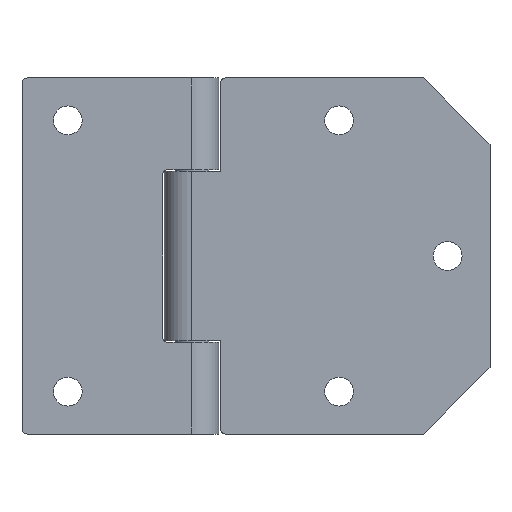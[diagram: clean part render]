
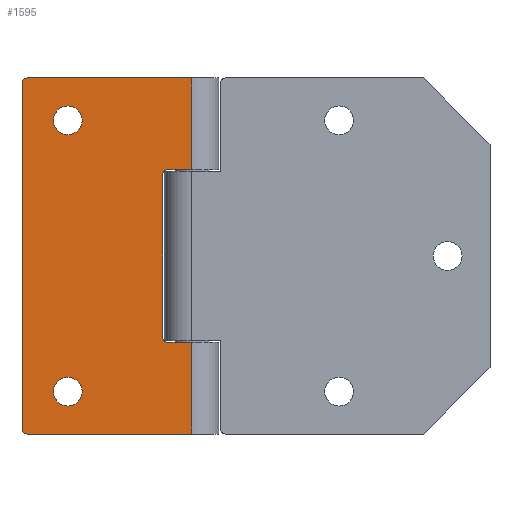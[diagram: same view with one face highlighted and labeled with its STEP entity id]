
A CAD part, front view. The second image highlights one B-rep face of the part: STEP entity #1595.
In plain terms, the highlighted planar face has unit normal (0, -1, 0).
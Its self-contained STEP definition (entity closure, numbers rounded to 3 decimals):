
#9 = CARTESIAN_POINT ( 'NONE',  ( -50., -8., 51. ) ) ;
#12 = VERTEX_POINT ( 'NONE', #1203 ) ;
#30 = CARTESIAN_POINT ( 'NONE',  ( 0., -8., 52.5 ) ) ;
#43 = FACE_BOUND ( 'NONE', #371, .T. ) ;
#51 = CIRCLE ( 'NONE', #851, 4.25 ) ;
#55 = CARTESIAN_POINT ( 'NONE',  ( 0., -8., 52.5 ) ) ;
#89 = CARTESIAN_POINT ( 'NONE',  ( -36.5, -8., -40. ) ) ;
#123 = CARTESIAN_POINT ( 'NONE',  ( -7., -8., -25.5 ) ) ;
#125 = EDGE_CURVE ( 'NONE', #1355, #1218, #1653, .T. ) ;
#156 = VECTOR ( 'NONE', #514, 1000. ) ;
#166 = DIRECTION ( 'NONE',  ( 1., 0., 0. ) ) ;
#186 = CARTESIAN_POINT ( 'NONE',  ( -8.5, -8., 24. ) ) ;
#191 = ORIENTED_EDGE ( 'NONE', *, *, #1415, .T. ) ;
#193 = ORIENTED_EDGE ( 'NONE', *, *, #876, .T. ) ;
#200 = CARTESIAN_POINT ( 'NONE',  ( 0., -8., -25.5 ) ) ;
#219 = ORIENTED_EDGE ( 'NONE', *, *, #684, .T. ) ;
#231 = ORIENTED_EDGE ( 'NONE', *, *, #264, .T. ) ;
#247 = EDGE_LOOP ( 'NONE', ( #1670, #1574 ) ) ;
#264 = EDGE_CURVE ( 'NONE', #1180, #336, #1663, .T. ) ;
#280 = ORIENTED_EDGE ( 'NONE', *, *, #1257, .F. ) ;
#309 = CARTESIAN_POINT ( 'NONE',  ( 0., -8., 52.5 ) ) ;
#323 = VERTEX_POINT ( 'NONE', #511 ) ;
#327 = LINE ( 'NONE', #1010, #1656 ) ;
#336 = VERTEX_POINT ( 'NONE', #1843 ) ;
#338 = CARTESIAN_POINT ( 'NONE',  ( -36.5, -8., 40. ) ) ;
#346 = VERTEX_POINT ( 'NONE', #200 ) ;
#371 = EDGE_LOOP ( 'NONE', ( #1453, #1904 ) ) ;
#381 = VECTOR ( 'NONE', #725, 1000. ) ;
#432 = DIRECTION ( 'NONE',  ( -1., 0., 0. ) ) ;
#440 = CARTESIAN_POINT ( 'NONE',  ( -36.5, -8., 40. ) ) ;
#453 = CARTESIAN_POINT ( 'NONE',  ( -8.5, -8., 52.5 ) ) ;
#496 = CARTESIAN_POINT ( 'NONE',  ( -7., -8., 24. ) ) ;
#511 = CARTESIAN_POINT ( 'NONE',  ( -50., -8., -51. ) ) ;
#514 = DIRECTION ( 'NONE',  ( 1., 0., 0. ) ) ;
#526 = DIRECTION ( 'NONE',  ( -1., 0., 0. ) ) ;
#530 = CARTESIAN_POINT ( 'NONE',  ( -7., -8., -24. ) ) ;
#536 = ORIENTED_EDGE ( 'NONE', *, *, #662, .F. ) ;
#548 = DIRECTION ( 'NONE',  ( 0., 1., 0. ) ) ;
#592 = VERTEX_POINT ( 'NONE', #1120 ) ;
#635 = EDGE_CURVE ( 'NONE', #2153, #1180, #2038, .T. ) ;
#644 = DIRECTION ( 'NONE',  ( 0., 1., 0. ) ) ;
#646 = CIRCLE ( 'NONE', #1407, 1.5 ) ;
#653 = VECTOR ( 'NONE', #166, 1000. ) ;
#660 = CARTESIAN_POINT ( 'NONE',  ( 0., -8., -52.5 ) ) ;
#662 = EDGE_CURVE ( 'NONE', #1171, #1126, #1527, .T. ) ;
#684 = EDGE_CURVE ( 'NONE', #346, #1019, #1162, .T. ) ;
#686 = CARTESIAN_POINT ( 'NONE',  ( 0., -8., -25.5 ) ) ;
#705 = AXIS2_PLACEMENT_3D ( 'NONE', #89, #548, #1101 ) ;
#709 = VERTEX_POINT ( 'NONE', #9 ) ;
#710 = FACE_BOUND ( 'NONE', #247, .T. ) ;
#723 = DIRECTION ( 'NONE',  ( 0., 1., 0. ) ) ;
#725 = DIRECTION ( 'NONE',  ( 0., 0., -1. ) ) ;
#734 = VECTOR ( 'NONE', #1662, 1000. ) ;
#742 = DIRECTION ( 'NONE',  ( -1., 0., 0. ) ) ;
#771 = AXIS2_PLACEMENT_3D ( 'NONE', #55, #723, #931 ) ;
#786 = CARTESIAN_POINT ( 'NONE',  ( -36.5, -8., -35.75 ) ) ;
#818 = DIRECTION ( 'NONE',  ( -1., 0., 0. ) ) ;
#851 = AXIS2_PLACEMENT_3D ( 'NONE', #440, #1434, #2108 ) ;
#862 = DIRECTION ( 'NONE',  ( 0., 1., 0. ) ) ;
#876 = EDGE_CURVE ( 'NONE', #1171, #709, #1418, .T. ) ;
#884 = FACE_OUTER_BOUND ( 'NONE', #1496, .T. ) ;
#924 = VECTOR ( 'NONE', #1808, 1000. ) ;
#931 = DIRECTION ( 'NONE',  ( -1., 0., 0. ) ) ;
#941 = LINE ( 'NONE', #309, #924 ) ;
#949 = CARTESIAN_POINT ( 'NONE',  ( 0., -8., -52.5 ) ) ;
#979 = CIRCLE ( 'NONE', #705, 4.25 ) ;
#1005 = ORIENTED_EDGE ( 'NONE', *, *, #1394, .T. ) ;
#1010 = CARTESIAN_POINT ( 'NONE',  ( 0., -8., 52.5 ) ) ;
#1019 = VERTEX_POINT ( 'NONE', #123 ) ;
#1030 = AXIS2_PLACEMENT_3D ( 'NONE', #1255, #1921, #432 ) ;
#1079 = CARTESIAN_POINT ( 'NONE',  ( 0., -8., 52.5 ) ) ;
#1082 = EDGE_CURVE ( 'NONE', #709, #323, #1399, .T. ) ;
#1092 = AXIS2_PLACEMENT_3D ( 'NONE', #496, #1508, #1671 ) ;
#1101 = DIRECTION ( 'NONE',  ( -1., 0., 0. ) ) ;
#1120 = CARTESIAN_POINT ( 'NONE',  ( -36.5, -8., 44.25 ) ) ;
#1126 = VERTEX_POINT ( 'NONE', #1079 ) ;
#1147 = CARTESIAN_POINT ( 'NONE',  ( 0., -8., 25.5 ) ) ;
#1162 = LINE ( 'NONE', #686, #1644 ) ;
#1168 = DIRECTION ( 'NONE',  ( -1., 0., 0. ) ) ;
#1171 = VERTEX_POINT ( 'NONE', #1763 ) ;
#1180 = VERTEX_POINT ( 'NONE', #1286 ) ;
#1191 = EDGE_CURVE ( 'NONE', #1803, #2153, #1616, .T. ) ;
#1203 = CARTESIAN_POINT ( 'NONE',  ( -48.5, -8., -52.5 ) ) ;
#1210 = VERTEX_POINT ( 'NONE', #949 ) ;
#1218 = VERTEX_POINT ( 'NONE', #786 ) ;
#1238 = DIRECTION ( 'NONE',  ( 0., -1., 0. ) ) ;
#1255 = CARTESIAN_POINT ( 'NONE',  ( -36.5, -8., -40. ) ) ;
#1257 = EDGE_CURVE ( 'NONE', #1126, #336, #941, .T. ) ;
#1286 = CARTESIAN_POINT ( 'NONE',  ( -7., -8., 25.5 ) ) ;
#1299 = EDGE_CURVE ( 'NONE', #1981, #592, #51, .T. ) ;
#1301 = LINE ( 'NONE', #660, #734 ) ;
#1307 = DIRECTION ( 'NONE',  ( -1., 0., 0. ) ) ;
#1314 = ORIENTED_EDGE ( 'NONE', *, *, #635, .T. ) ;
#1321 = CARTESIAN_POINT ( 'NONE',  ( -36.5, -8., -44.25 ) ) ;
#1355 = VERTEX_POINT ( 'NONE', #1321 ) ;
#1371 = CIRCLE ( 'NONE', #1541, 1.5 ) ;
#1383 = AXIS2_PLACEMENT_3D ( 'NONE', #338, #644, #1307 ) ;
#1394 = EDGE_CURVE ( 'NONE', #1019, #1803, #646, .T. ) ;
#1399 = LINE ( 'NONE', #1910, #381 ) ;
#1407 = AXIS2_PLACEMENT_3D ( 'NONE', #530, #862, #1168 ) ;
#1415 = EDGE_CURVE ( 'NONE', #323, #12, #1371, .T. ) ;
#1418 = CIRCLE ( 'NONE', #1800, 1.5 ) ;
#1434 = DIRECTION ( 'NONE',  ( 0., 1., 0. ) ) ;
#1453 = ORIENTED_EDGE ( 'NONE', *, *, #1639, .T. ) ;
#1478 = DIRECTION ( 'NONE',  ( 0., 0., -1. ) ) ;
#1493 = CARTESIAN_POINT ( 'NONE',  ( -8.5, -8., -24. ) ) ;
#1496 = EDGE_LOOP ( 'NONE', ( #1949, #191, #1638, #1738, #219, #1005, #1833, #1314, #231, #280, #536, #193 ) ) ;
#1508 = DIRECTION ( 'NONE',  ( 0., 1., 0. ) ) ;
#1518 = CIRCLE ( 'NONE', #1383, 4.25 ) ;
#1527 = LINE ( 'NONE', #30, #156 ) ;
#1541 = AXIS2_PLACEMENT_3D ( 'NONE', #1650, #1829, #818 ) ;
#1542 = PLANE ( 'NONE',  #771 ) ;
#1574 = ORIENTED_EDGE ( 'NONE', *, *, #1299, .T. ) ;
#1595 = ADVANCED_FACE ( 'NONE', ( #43, #710, #884 ), #1542, .F. ) ;
#1616 = LINE ( 'NONE', #453, #2036 ) ;
#1638 = ORIENTED_EDGE ( 'NONE', *, *, #1876, .T. ) ;
#1639 = EDGE_CURVE ( 'NONE', #1218, #1355, #979, .T. ) ;
#1644 = VECTOR ( 'NONE', #526, 1000. ) ;
#1650 = CARTESIAN_POINT ( 'NONE',  ( -48.5, -8., -51. ) ) ;
#1653 = CIRCLE ( 'NONE', #1030, 4.25 ) ;
#1656 = VECTOR ( 'NONE', #1478, 1000. ) ;
#1662 = DIRECTION ( 'NONE',  ( 1., 0., 0. ) ) ;
#1663 = LINE ( 'NONE', #1147, #653 ) ;
#1670 = ORIENTED_EDGE ( 'NONE', *, *, #2131, .T. ) ;
#1671 = DIRECTION ( 'NONE',  ( -1., 0., 0. ) ) ;
#1676 = CARTESIAN_POINT ( 'NONE',  ( -36.5, -8., 35.75 ) ) ;
#1738 = ORIENTED_EDGE ( 'NONE', *, *, #2101, .F. ) ;
#1763 = CARTESIAN_POINT ( 'NONE',  ( -48.5, -8., 52.5 ) ) ;
#1800 = AXIS2_PLACEMENT_3D ( 'NONE', #1886, #1238, #742 ) ;
#1803 = VERTEX_POINT ( 'NONE', #1493 ) ;
#1808 = DIRECTION ( 'NONE',  ( 0., 0., -1. ) ) ;
#1829 = DIRECTION ( 'NONE',  ( 0., -1., 0. ) ) ;
#1833 = ORIENTED_EDGE ( 'NONE', *, *, #1191, .T. ) ;
#1843 = CARTESIAN_POINT ( 'NONE',  ( 0., -8., 25.5 ) ) ;
#1876 = EDGE_CURVE ( 'NONE', #12, #1210, #1301, .T. ) ;
#1886 = CARTESIAN_POINT ( 'NONE',  ( -48.5, -8., 51. ) ) ;
#1904 = ORIENTED_EDGE ( 'NONE', *, *, #125, .T. ) ;
#1910 = CARTESIAN_POINT ( 'NONE',  ( -50., -8., 52.5 ) ) ;
#1921 = DIRECTION ( 'NONE',  ( 0., 1., 0. ) ) ;
#1949 = ORIENTED_EDGE ( 'NONE', *, *, #1082, .T. ) ;
#1974 = DIRECTION ( 'NONE',  ( 0., 0., 1. ) ) ;
#1981 = VERTEX_POINT ( 'NONE', #1676 ) ;
#2036 = VECTOR ( 'NONE', #1974, 1000. ) ;
#2038 = CIRCLE ( 'NONE', #1092, 1.5 ) ;
#2101 = EDGE_CURVE ( 'NONE', #346, #1210, #327, .T. ) ;
#2108 = DIRECTION ( 'NONE',  ( -1., 0., 0. ) ) ;
#2131 = EDGE_CURVE ( 'NONE', #592, #1981, #1518, .T. ) ;
#2153 = VERTEX_POINT ( 'NONE', #186 ) ;
